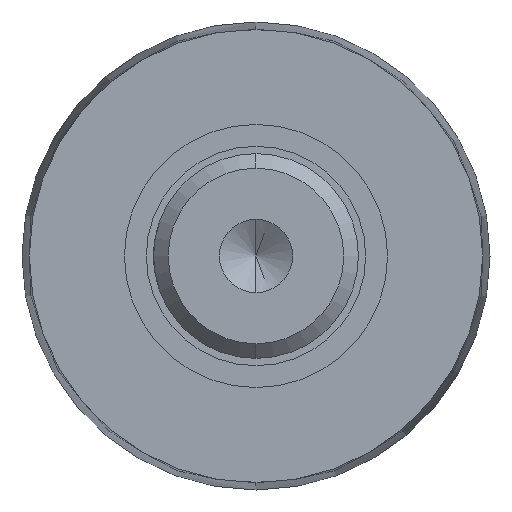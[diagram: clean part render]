
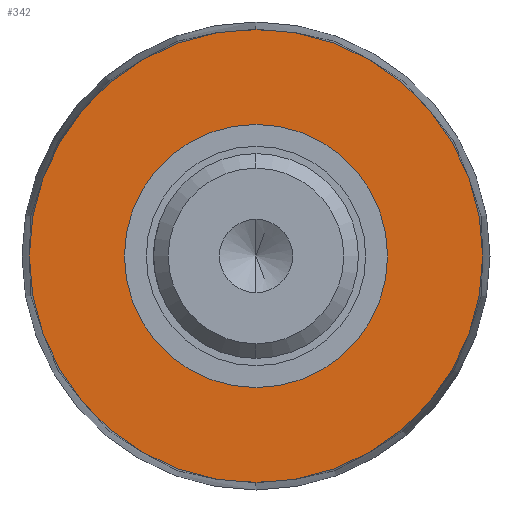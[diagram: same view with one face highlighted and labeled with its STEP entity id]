
A CAD part, left-side view. The second image highlights one B-rep face of the part: STEP entity #342.
In plain terms, the highlighted planar face has unit normal (-1, 0, 0).
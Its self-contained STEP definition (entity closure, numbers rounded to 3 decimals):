
#10 = CARTESIAN_POINT ( 'NONE',  ( 98.5, 0., 0. ) ) ;
#14 = AXIS2_PLACEMENT_3D ( 'NONE', #829, #353, #840 ) ;
#96 = CIRCLE ( 'NONE', #148, 9. ) ;
#148 = AXIS2_PLACEMENT_3D ( 'NONE', #10, #528, #1215 ) ;
#203 = CIRCLE ( 'NONE', #1103, 15.5 ) ;
#338 = VERTEX_POINT ( 'NONE', #1115 ) ;
#342 = ADVANCED_FACE ( 'NONE', ( #1290, #1155 ), #1221, .T. ) ;
#348 = CIRCLE ( 'NONE', #739, 15.5 ) ;
#353 = DIRECTION ( 'NONE',  ( 1., 0., 0. ) ) ;
#370 = VERTEX_POINT ( 'NONE', #1158 ) ;
#372 = ORIENTED_EDGE ( 'NONE', *, *, #982, .T. ) ;
#389 = DIRECTION ( 'NONE',  ( 0., 0., 1. ) ) ;
#407 = ORIENTED_EDGE ( 'NONE', *, *, #1276, .T. ) ;
#452 = ORIENTED_EDGE ( 'NONE', *, *, #735, .T. ) ;
#528 = DIRECTION ( 'NONE',  ( 1., 0., 0. ) ) ;
#543 = AXIS2_PLACEMENT_3D ( 'NONE', #625, #647, #736 ) ;
#585 = DIRECTION ( 'NONE',  ( -1., 0., 0. ) ) ;
#607 = CARTESIAN_POINT ( 'NONE',  ( 98.5, 0., -9. ) ) ;
#625 = CARTESIAN_POINT ( 'NONE',  ( 98.5, 16., 0. ) ) ;
#647 = DIRECTION ( 'NONE',  ( -1., 0., 0. ) ) ;
#735 = EDGE_CURVE ( 'NONE', #952, #1283, #871, .T. ) ;
#736 = DIRECTION ( 'NONE',  ( 0., 0., 1. ) ) ;
#739 = AXIS2_PLACEMENT_3D ( 'NONE', #986, #1191, #892 ) ;
#829 = CARTESIAN_POINT ( 'NONE',  ( 98.5, 0., 0. ) ) ;
#840 = DIRECTION ( 'NONE',  ( 0., 0., -1. ) ) ;
#871 = CIRCLE ( 'NONE', #14, 9. ) ;
#892 = DIRECTION ( 'NONE',  ( 0., 0., 1. ) ) ;
#918 = EDGE_LOOP ( 'NONE', ( #407, #1097 ) ) ;
#952 = VERTEX_POINT ( 'NONE', #607 ) ;
#982 = EDGE_CURVE ( 'NONE', #1283, #952, #96, .T. ) ;
#986 = CARTESIAN_POINT ( 'NONE',  ( 98.5, 0., 0. ) ) ;
#989 = CARTESIAN_POINT ( 'NONE',  ( 98.5, 0., 9. ) ) ;
#1097 = ORIENTED_EDGE ( 'NONE', *, *, #1162, .T. ) ;
#1103 = AXIS2_PLACEMENT_3D ( 'NONE', #1281, #585, #389 ) ;
#1115 = CARTESIAN_POINT ( 'NONE',  ( 98.5, 0., 15.5 ) ) ;
#1155 = FACE_OUTER_BOUND ( 'NONE', #918, .T. ) ;
#1158 = CARTESIAN_POINT ( 'NONE',  ( 98.5, 0., -15.5 ) ) ;
#1162 = EDGE_CURVE ( 'NONE', #338, #370, #203, .T. ) ;
#1191 = DIRECTION ( 'NONE',  ( -1., 0., 0. ) ) ;
#1209 = EDGE_LOOP ( 'NONE', ( #452, #372 ) ) ;
#1215 = DIRECTION ( 'NONE',  ( 0., 0., -1. ) ) ;
#1221 = PLANE ( 'NONE',  #543 ) ;
#1276 = EDGE_CURVE ( 'NONE', #370, #338, #348, .T. ) ;
#1281 = CARTESIAN_POINT ( 'NONE',  ( 98.5, 0., 0. ) ) ;
#1283 = VERTEX_POINT ( 'NONE', #989 ) ;
#1290 = FACE_BOUND ( 'NONE', #1209, .T. ) ;
